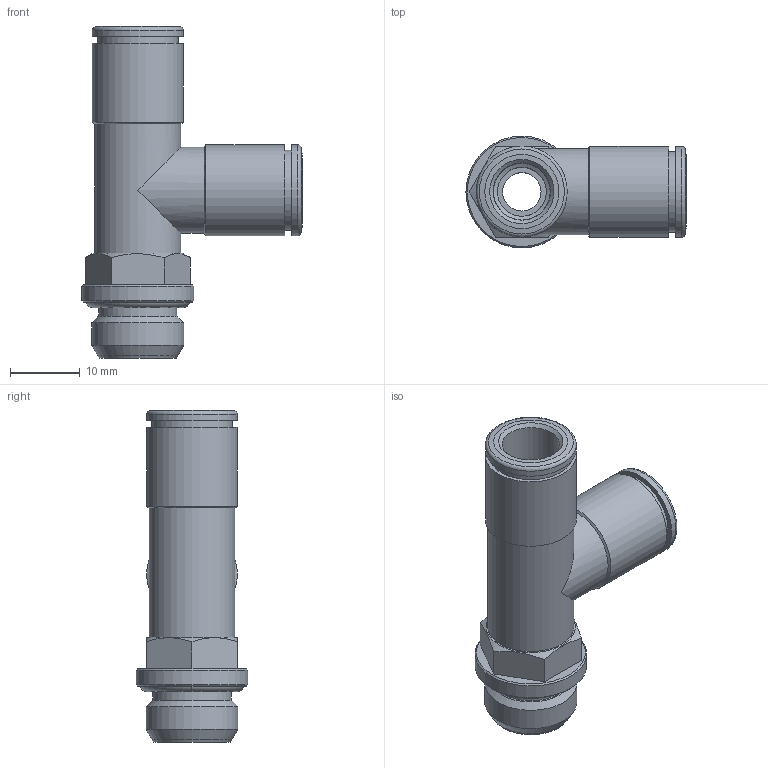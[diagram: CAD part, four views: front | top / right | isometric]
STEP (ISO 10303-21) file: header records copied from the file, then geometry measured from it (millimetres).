
FILE_DESCRIPTION(('Bauteilbeschreibung','HiCAD-Model','HiCAD-STEP-TRANSLATION','Bauteilbeschreibung'),'2;1');
FILE_NAME('B:/ABGLEICH/ZEICHNUNGEN/STEP FÜR INTERNET/STEP/IPSO 021/202106_IPSO_021_8_1-4.STP','2011-09-28T16:09:41+00:00',('Konstrukteur'),('Konstrukteur Firma GmbH'),' HiCAD neXt 2008, Step 3.1.1401.2J ','HiCAD neXt 2008','confidential');
FILE_SCHEMA(('AUTOMOTIVE_DESIGN { 1 2 10303 214 0 1 1 1 }'));
Length unit declared in the file: millimetre
Products named in the file (8): A02106_IPSO_021_8_1_4; OR 11_11X1_78; A14603_N2_GEW__1_8_1_4; A146030N20GEW001080104; G 1_4; DR8_1_NEU; DR8010NEU; R202105_N2
Assembly tree (7 placements, depth 3):
  A02106_IPSO_021_8_1_4
    OR 11_11X1_78
    A14603_N2_GEW__1_8_1_4
    A146030N20GEW001080104
      G 1_4
    DR8_1_NEU
    DR8010NEU
    R202105_N2
Bounding box: 31.5 x 16 x 47.5 mm (x, y, z)
Volume: 4784.5 mm3; surface area: 7042.1 mm2
Topology: 6 solids, 6 shells, 96 faces, 203 edges, 124 vertices
Faces by surface type: cylinder 32, cone 31, plane 25, torus 8
Full cylindrical faces by diameter (mm): 5.5 x1, 7 x2, 8.1 x2, 8.2 x2, 8.5 x1, 9 x2, 10.1 x4, 11 x2, 11.2 x1, 11.445 x2, 11.5 x2, 11.6 x2, 12.3 x2, 13 x4, 13.157 x1, 16 x1
Entity records: 3025 total; most frequent: CARTESIAN_POINT 537, DIRECTION 424, ORIENTED_EDGE 234, AXIS2_PLACEMENT_3D 205, EDGE_LOOP 180, EDGE_CURVE 117, COLOUR_RGB 114, PRESENTATION_STYLE_ASSIGNMENT 114
